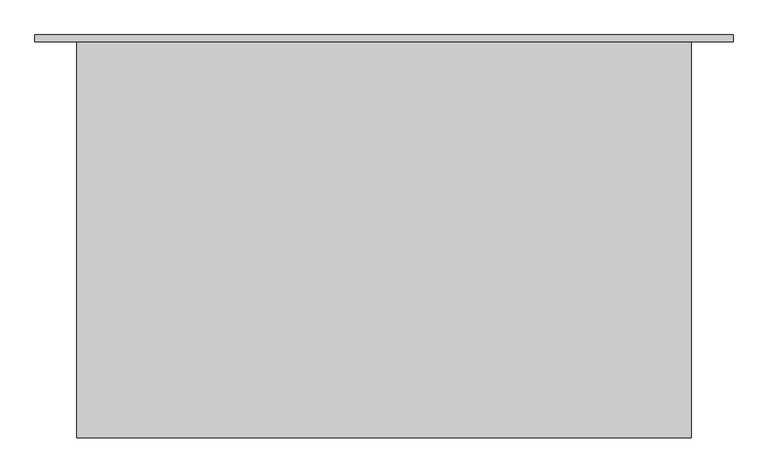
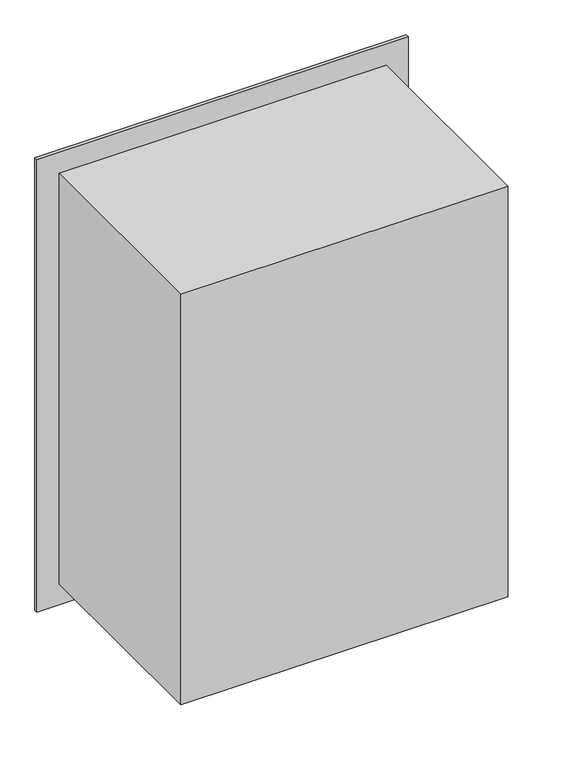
"""IFC4 building model written with IfcOpenShell, lengths in millimetres: proxy geometry, 900x1200x600 Manway Riser."""

import ifcopenshell
import ifcopenshell.guid

model = None  # the IFC model being written
_history = None  # IfcOwnerHistory: only IFC2X3 demands one
_inside = {}  # id of a spatial element -> (the spatial element, [elements in it])
_under = {}  # id of a project, library or spatial element -> (it, [spatial elements below it])
_declared = {}  # id of a project -> (the project, [libraries it declares])
_typed = {}  # id of a type object -> (the type object, [elements of that type])
_made_of = {}  # id of a material, layer set ... -> (it, [elements and type objects made of it])


def new_model(schema):
    """Start an empty IFC model of exactly this schema.

    Asked for "IFC4X3", IfcOpenShell would pick the latest addendum, in which some entities
    have other attributes; the version numbers below select the first issue.
    IFC2X3 requires an IfcOwnerHistory on every rooted entity: one is made here for all.
    """
    global model, _history
    if schema == "IFC4X3":
        model = ifcopenshell.file(schema_version=(4, 3, 0, 0))
    else:
        model = ifcopenshell.file(schema=schema)
    _inside.clear()
    _under.clear()
    _declared.clear()
    _typed.clear()
    _made_of.clear()
    _history = None
    if model.schema == "IFC2X3":
        org = make("IfcOrganization", Name="unknown")
        user = make(
            "IfcPersonAndOrganization",
            ThePerson=make("IfcPerson", FamilyName="unknown"),
            TheOrganization=org,
        )
        app = make(
            "IfcApplication",
            ApplicationDeveloper=org,
            Version="unknown",
            ApplicationFullName="unknown",
            ApplicationIdentifier="unknown",
        )
        _history = make(
            "IfcOwnerHistory",
            OwningUser=user,
            OwningApplication=app,
            ChangeAction="ADDED",
            CreationDate=0,
        )
    return model


def make(cls, **values):
    """One entity of the class cls with the attributes given. An attribute that is None is left unset."""
    return model.create_entity(
        cls, **{name: value for name, value in values.items() if value is not None}
    )


def rooted(cls, **values):
    """An entity with a GlobalId (a new one), such as an element, a storey or a relation."""
    return make(cls, GlobalId=ifcopenshell.guid.new(), OwnerHistory=_history, **values)


def si_unit(unit_type, name, prefix=None):
    """IfcSIUnit, for example si_unit("LENGTHUNIT", "METRE", prefix="MILLI")."""
    return make("IfcSIUnit", UnitType=unit_type, Prefix=prefix, Name=name)


def assignment(units):
    """IfcUnitAssignment: the units of a project."""
    return None if units is None else make("IfcUnitAssignment", Units=units)


def point(xyz):
    """IfcCartesianPoint."""
    return None if xyz is None else make("IfcCartesianPoint", Coordinates=xyz)


def direction(xyz):
    """IfcDirection."""
    return None if xyz is None else make("IfcDirection", DirectionRatios=xyz)


def frame(location, z_axis=None, x_axis=None):
    """IfcAxis2Placement3D, a coordinate frame: its origin and axes. An axis left out is left unset."""
    return make(
        "IfcAxis2Placement3D",
        Location=point(location),
        Axis=direction(z_axis),
        RefDirection=direction(x_axis),
    )


def origin():
    """The frame at (0, 0, 0) with its axes left unset."""
    return frame((0.0, 0.0, 0.0))


def place(relative_to, where):
    """IfcLocalPlacement: puts the frame where relative to a parent placement (None: the world)."""
    return make(
        "IfcLocalPlacement", PlacementRelTo=relative_to, RelativePlacement=where
    )


def context(
    kind, dimensions, precision=None, world=None, true_north=None, identifier=None
):
    """IfcGeometricRepresentationContext, for example the 3D "Model" context."""
    return make(
        "IfcGeometricRepresentationContext",
        ContextIdentifier=identifier,
        ContextType=kind,
        CoordinateSpaceDimension=dimensions,
        Precision=precision,
        WorldCoordinateSystem=world,
        TrueNorth=true_north,
    )


def project(units=None, contexts=None):
    """IfcProject with its units and contexts."""
    return rooted(
        "IfcProject",
        Name="project",
        RepresentationContexts=contexts,
        UnitsInContext=assignment(units),
    )


def spatial(cls, under=None, at=None, **own):
    """A site, building, storey or space (cls), placed at a placement, below another one or the project."""
    s = rooted(cls, ObjectPlacement=at, **own)
    if under is not None:
        _under.setdefault(under.id(), (under, []))[1].append(s)
    return s


def faces_of(points, faces, orient=None, outer=None):
    """IfcFace entities. A face is a list of loops; a loop is a list of indices into points, from 0.

    orient and outer hold one flag for each loop. By default every Orientation is true, the
    first loop of a face is its IfcFaceOuterBound and the others are IfcFaceBound.
    """
    made = []
    for i, loops in enumerate(faces):
        bounds = []
        for j, loop in enumerate(loops):
            is_outer = j == 0 if outer is None else outer[i][j]
            bounds.append(
                make(
                    "IfcFaceOuterBound" if is_outer else "IfcFaceBound",
                    Bound=make("IfcPolyLoop", Polygon=[points[k] for k in loop]),
                    Orientation=True if orient is None else orient[i][j],
                )
            )
        made.append(make("IfcFace", Bounds=bounds))
    return made


def faceted_brep(points, faces, orient=None, outer=None, voids=None):
    """IfcFacetedBrep: a solid bounded by flat faces; with voids (closed shells), ...WithVoids."""
    shared = [point(p) for p in points]
    hull = make("IfcClosedShell", CfsFaces=faces_of(shared, faces, orient, outer))
    if voids is None:
        return make("IfcFacetedBrep", Outer=hull)
    return make(
        "IfcFacetedBrepWithVoids",
        Outer=hull,
        Voids=[
            make(cls, CfsFaces=faces_of(shared, fs, o, b)) for cls, fs, o, b in voids
        ],
    )


def shape(context_of_items, identifier, shape_type, items):
    """IfcShapeRepresentation: the items that make up one representation, for example the "Body"."""
    return make(
        "IfcShapeRepresentation",
        ContextOfItems=context_of_items,
        RepresentationIdentifier=identifier,
        RepresentationType=shape_type,
        Items=items,
    )


def source(mapping_origin, context_of_items, identifier, shape_type, items):
    """IfcRepresentationMap: a shape defined once, which mapped items show again and again."""
    return make(
        "IfcRepresentationMap",
        MappingOrigin=mapping_origin,
        MappedRepresentation=shape(context_of_items, identifier, shape_type, items),
    )


def transform(
    local_origin,
    x_axis=None,
    y_axis=None,
    z_axis=None,
    scale=None,
    scale2=None,
    scale3=None,
    uniform=True,
):
    """IfcCartesianTransformationOperator3D, or its non-uniform kind. x_axis, y_axis, z_axis: its Axis1, 2, 3."""
    if uniform:
        return make(
            "IfcCartesianTransformationOperator3D",
            Axis1=direction(x_axis),
            Axis2=direction(y_axis),
            LocalOrigin=point(local_origin),
            Scale=scale,
            Axis3=direction(z_axis),
        )
    return make(
        "IfcCartesianTransformationOperator3DnonUniform",
        Axis1=direction(x_axis),
        Axis2=direction(y_axis),
        LocalOrigin=point(local_origin),
        Scale=scale,
        Axis3=direction(z_axis),
        Scale2=scale2,
        Scale3=scale3,
    )


def mapped(mapping_source, mapping_target):
    """IfcMappedItem: shows the shape of a source again, moved by a transform."""
    return make(
        "IfcMappedItem", MappingSource=mapping_source, MappingTarget=mapping_target
    )


def made_of(thing, what):
    """Note that an element or type object is made of a material, layer set ...; save() writes the relation."""
    if what is not None:
        _made_of.setdefault(what.id(), (what, []))[1].append(thing)
    return thing


def element(
    cls,
    number,
    at=None,
    inside=None,
    cuts=None,
    type_object=None,
    material=None,
    context=None,
    identifier="Body",
    shape_type=None,
    held_by="IfcProductDefinitionShape",
    body=None,
    shapes=None,
    **own,
):
    """One element of the class cls, such as IfcWall. Its Tag is "e" and its number.

    at: its placement. inside: the storey or other place that contains it. cuts: it is an
    opening in that element (IfcRelVoidsElement). A single representation is given by context,
    identifier, shape_type and body (its items); several are given by shapes. held_by: the class
    of the entity that holds the representations. save() writes the other relations.
    """
    e = rooted(cls, Tag="e%d" % number, ObjectPlacement=at, **own)
    if body is not None:
        shapes = [shape(context, identifier, shape_type, body)]
    if shapes is not None:
        e.Representation = make(held_by, Representations=shapes)
    if inside is not None:
        _inside.setdefault(inside.id(), (inside, []))[1].append(e)
    if cuts is not None:
        rooted(
            "IfcRelVoidsElement", RelatingBuildingElement=cuts, RelatedOpeningElement=e
        )
    if type_object is not None:
        _typed.setdefault(type_object.id(), (type_object, []))[1].append(e)
    return made_of(e, material)


def aggregate(whole, parts):
    """IfcRelAggregates: a whole, such as a stair, and the parts it consists of."""
    return rooted("IfcRelAggregates", RelatingObject=whole, RelatedObjects=parts)


def save(model, path):
    """Write the relations noted so far, then the file.

    IfcRelAggregates (storeys below a building ...), IfcRelContainedInSpatialStructure (elements
    in a storey), IfcRelDefinesByType, IfcRelAssociatesMaterial and IfcRelDeclares: one each for
    every whole, place, type object, material and project.
    """
    for whole, parts in _under.values():
        aggregate(whole, parts)
    for where, things in _inside.values():
        rooted(
            "IfcRelContainedInSpatialStructure",
            RelatedElements=things,
            RelatingStructure=where,
        )
    for kind, things in _typed.values():
        rooted("IfcRelDefinesByType", RelatedObjects=things, RelatingType=kind)
    for what, things in _made_of.values():
        rooted("IfcRelAssociatesMaterial", RelatedObjects=things, RelatingMaterial=what)
    for by, libraries in _declared.values():
        rooted("IfcRelDeclares", RelatingContext=by, RelatedDefinitions=libraries)
    model.write(path)


def generic_models_c0f8ed8c(model_context):
    return source(origin(), model_context, "Body", "Brep", [
        faceted_brep([(458.0, -600.0, -608.0), (458.0, -600.0, 608.0), (-458.0, -600.0, 608.0), (-458.0, -600.0, -608.0), (520.0, 0.0, -670.0), (-520.0, 0.0, -670.0), (-520.0, 0.0, 670.0), (520.0, 0.0, 670.0), (-458.0, -10.0, -608.0), (458.0, -10.0, -608.0), (-520.0, -10.0, -670.0), (520.0, -10.0, -670.0), (520.0, -10.0, 670.0), (-520.0, -10.0, 670.0), (-458.0, -10.0, 608.0), (458.0, -10.0, 608.0)], [[[0, 1, 2, 3]], [[4, 5, 6, 7]], [[0, 3, 8, 9]], [[10, 11, 12, 13], [9, 8, 14, 15]], [[3, 2, 14, 8]], [[2, 1, 15, 14]], [[0, 9, 15, 1]], [[5, 4, 11, 10]], [[6, 5, 10, 13]], [[7, 6, 13, 12]], [[4, 7, 12, 11]]]),
    ])


if __name__ == "__main__":
    model = new_model("IFC4")
    model_context = context("Model", 3, world=origin())
    ifc_project = project(units=[si_unit("LENGTHUNIT", "METRE", prefix="MILLI")], contexts=[model_context])
    site = spatial("IfcSite", under=ifc_project)
    building = spatial("IfcBuilding", under=site)
    placement = place(None, origin())
    generic_models_shape = generic_models_c0f8ed8c(model_context)
    element("IfcBuildingElementProxy", 1, Name="900x1200x600 Manway Riser", ObjectType="900x1200x600 Manway Riser", at=placement, inside=building, context=model_context, shape_type="MappedRepresentation", body=[
        mapped(generic_models_shape, transform((0.0, 0.0, 0.0), x_axis=(1.0, 0.0, 0.0), y_axis=(0.0, 1.0, 0.0), z_axis=(0.0, 0.0, 1.0))),
    ])
    save(model, "model.ifc")
